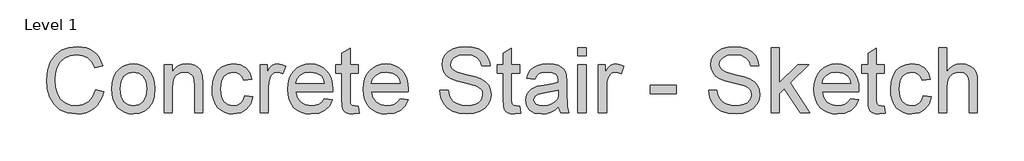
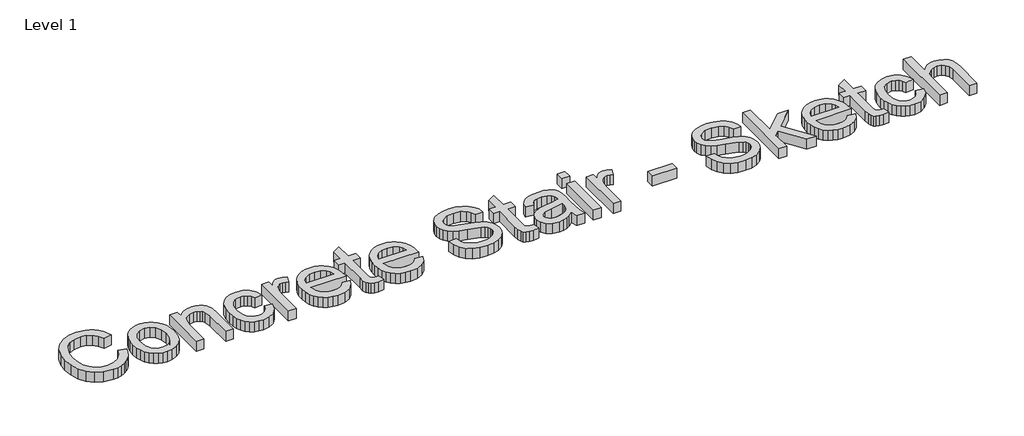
# One storey, part 24 of 26: 1 proxy.
"""IFC4 building model written with IfcOpenShell, lengths in millimetres."""

from ifc_helpers import new_model, si_unit, origin, origin_with_axes, place, context, project, spatial, polyline, outline, extrude, element, save

model = new_model("IFC4")

# Units and contexts
model_context = context("Model", 3, world=origin())
ifc_project = project(units=[si_unit("LENGTHUNIT", "METRE", prefix="MILLI")], contexts=[model_context])

# Site, building, storey
site = spatial("IfcSite", under=ifc_project)
building = spatial("IfcBuilding", under=site)
storey = spatial("IfcBuildingStorey", under=building, Name="Level 1", Elevation=0.0)

# Proxy
placement = place(None, origin())
element("IfcBuildingElementProxy", 1, Name="12\" Arial", ObjectType="12\" Arial", at=placement, inside=storey, context=model_context, shape_type="SweptSolid", body=[
    extrude(outline(polyline([(-4504.4827341, 9583.5567877), (-4466.9688879, 9573.8852493), (-4474.3919768, 9550.5558683), (-4484.2787437, 9530.1709945), (-4496.6291884, 9512.7306279), (-4511.443311, 9498.2347685), (-4528.3868206, 9486.8391134), (-4547.1254264, 9478.6993598), (-4567.6591283, 9473.8155077), (-4589.9879264, 9472.187557), (-4633.5006908, 9477.1149127), (-4668.0562918, 9491.89698), (-4694.5431187, 9516.0208743), (-4713.849561, 9548.9737108), (-4725.6367485, 9587.7148166), (-4729.565811, 9629.2035185), (-4725.1238639, 9672.9635666), (-4711.7980225, 9710.7521723), (-4690.2843446, 9741.3695521), (-4661.2788879, 9763.6159223), (-4626.8789841, 9777.1615714), (-4589.1819648, 9781.6767877), (-4548.0504504, 9775.8335666), (-4530.1567305, 9768.5295401), (-4514.0443687, 9758.3039031), (-4499.978966, 9745.4268358), (-4488.2261235, 9730.1685185), (-4471.6581187, 9692.5081339), (-4509.1719648, 9683.5692877), (-4522.1772533, 9710.9261868), (-4539.9450418, 9729.6922685), (-4562.6951379, 9740.5452733), (-4590.6473494, 9744.1629416), (-4622.8674937, 9740.1514512), (-4649.3360033, 9728.11698), (-4669.4209312, 9709.3234223), (-4682.4903302, 9685.0346723), (-4689.6615562, 9657.5770281), (-4692.0519648, 9629.2767877), (-4689.2219408, 9594.6204416), (-4680.7318687, 9564.6533262), (-4666.2611956, 9540.5202733), (-4645.4893687, 9523.3661146), (-4620.5869889, 9513.117581), (-4593.7246571, 9509.7014031), (-4562.4112196, 9514.3539993), (-4536.3182148, 9528.3117877), (-4516.6179504, 9551.42823), (-4504.4827341, 9583.5567877)])), origin_with_axes(), (0.0, 0.0, 1.0), 50.8),
    extrude(outline(polyline([(-4429.4550418, 9587.0737108), (-4427.4263999, 9615.6166555), (-4421.3404744, 9640.2122204), (-4411.1972653, 9660.8604055), (-4396.9967725, 9677.5612108), (-4382.7001139, 9688.2356219), (-4366.9197533, 9695.8602012), (-4349.6556908, 9700.4349488), (-4330.9079264, 9701.9598646), (-4310.2116583, 9700.1029476), (-4291.4982389, 9694.5321964), (-4274.767668, 9685.247611), (-4260.0199456, 9672.2491916), (-4247.9831848, 9655.9765534), (-4239.3854985, 9636.8693118), (-4234.2268867, 9614.9274668), (-4232.5073494, 9590.1510185), (-4235.5480225, 9552.2525089), (-4244.6700418, 9523.4027493), (-4259.6078062, 9501.7974848), (-4280.0957148, 9485.6324608), (-4304.4302581, 9475.5487829), (-4330.9079264, 9472.187557), (-4351.90643, 9474.037605), (-4370.7938639, 9479.5877493), (-4387.570228, 9488.8379896), (-4402.2355225, 9501.7883262), (-4414.1440622, 9518.2189512), (-4422.6501619, 9537.910057), (-4427.7538218, 9560.8616435), (-4429.4550418, 9587.0737108)]), holes=[polyline([(-4391.9411956, 9587.14698), (-4387.5999937, 9553.1958502), (-4374.5763879, 9529.0078454), (-4354.9768687, 9514.5280137), (-4330.9079264, 9509.7014031), (-4306.9488879, 9514.5554896), (-4287.3860033, 9529.1177493), (-4274.3623975, 9553.626307), (-4270.0211956, 9588.3192877), (-4274.3898735, 9621.2812829), (-4287.4959071, 9645.1395762), (-4307.0862677, 9659.6194079), (-4330.9079264, 9664.4460185), (-4354.9768687, 9659.6377252), (-4374.5763879, 9645.2128454), (-4387.5999937, 9621.0797925), (-4391.9411956, 9587.14698)])]), origin_with_axes(), (0.0, 0.0, 1.0), 50.8),
    extrude(outline(polyline([(-4190.3042725, 9476.8767877), (-4190.3042725, 9697.2706339), (-4152.7904264, 9697.2706339), (-4152.7904264, 9666.497557), (-4139.7576619, 9682.0123166), (-4124.1055225, 9693.0942877), (-4105.8340081, 9699.7434704), (-4084.9431187, 9701.9598646), (-4066.4517966, 9700.1739271), (-4049.5174456, 9694.8161146), (-4035.3948014, 9686.5550089), (-4025.3385994, 9676.0591916), (-4014.0917725, 9648.4733262), (-4012.1135033, 9612.205057), (-4012.1135033, 9476.8767877), (-4049.6273494, 9476.8767877), (-4049.6273494, 9607.14948), (-4053.9502341, 9640.3404416), (-4059.930835, 9650.2226291), (-4069.2268687, 9657.8884223), (-4081.1422773, 9662.8066195), (-4094.9810033, 9664.4460185), (-4116.9526139, 9660.7642396), (-4135.682061, 9649.7189031), (-4143.1669708, 9640.7022084), (-4148.513335, 9628.3792396), (-4152.7904264, 9593.81448), (-4152.7904264, 9476.8767877), (-4190.3042725, 9476.8767877)])), origin_with_axes(), (0.0, 0.0, 1.0), 50.8),
    extrude(outline(polyline([(-3819.8550418, 9556.5937108), (-3782.3411956, 9551.90448), (-3792.8003783, 9518.5395041), (-3812.4548494, 9493.32573), (-3839.454561, 9477.4721002), (-3871.9494648, 9472.187557), (-3892.9891824, 9474.030736), (-3911.8537196, 9479.5602733), (-3928.5430766, 9488.7761687), (-3943.0572533, 9501.6784223), (-3954.8055165, 9518.0243298), (-3963.1971331, 9537.5711868), (-3968.232103, 9560.3189933), (-3969.9104264, 9586.2677493), (-3967.0437677, 9619.6510425), (-3958.4437918, 9648.58323), (-3943.9731187, 9671.946956), (-3923.4943687, 9688.6248646), (-3898.9949696, 9698.6261146), (-3872.4623494, 9701.9598646), (-3840.7642485, 9697.3805377), (-3815.4222533, 9683.642557), (-3797.2423254, 9661.4786146), (-3787.0304264, 9631.6214031), (-3824.5442725, 9626.9321723), (-3831.3491523, 9643.2986868), (-3841.9457148, 9655.0309223), (-3855.7478062, 9662.0922445), (-3872.1692725, 9664.4460185), (-3896.4122293, 9659.8117396), (-3915.654561, 9645.9089031), (-3928.2110754, 9621.9864993), (-3932.3965802, 9587.2935185), (-3928.3026619, 9552.1334464), (-3916.0209071, 9528.1286146), (-3897.1266043, 9514.308206), (-3873.1950418, 9509.7014031), (-3853.7695369, 9512.5772204), (-3837.8426379, 9521.2046723), (-3826.2569408, 9535.8035666), (-3819.8550418, 9556.5937108)])), origin_with_axes(), (0.0, 0.0, 1.0), 50.8),
    extrude(outline(polyline([(-3749.5165802, 9476.8767877), (-3749.5165802, 9697.2706339), (-3716.6919648, 9697.2706339), (-3716.6919648, 9664.6658262), (-3704.5659071, 9683.5692877), (-3693.3923494, 9694.7062108), (-3682.1821571, 9700.1464512), (-3669.9461956, 9701.9598646), (-3651.2625418, 9699.06573), (-3632.285811, 9690.3833262), (-3644.8148494, 9656.7527493), (-3658.003311, 9662.5227012), (-3671.1917725, 9664.4460185), (-3682.3928062, 9662.5959704), (-3692.4032148, 9657.0458262), (-3700.4903062, 9648.2168839), (-3705.9213879, 9636.5304416), (-3710.4823975, 9615.5754416), (-3712.0027341, 9592.7154416), (-3712.0027341, 9476.8767877), (-3749.5165802, 9476.8767877)])), origin_with_axes(), (0.0, 0.0, 1.0), 50.8),
    extrude(outline(polyline([(-3454.5346571, 9542.5260185), (-3417.7535033, 9537.8367877), (-3431.0060754, 9510.1227012), (-3452.1534071, 9489.4058262), (-3480.7192485, 9476.4921243), (-3516.2273494, 9472.187557), (-3539.5040682, 9474.044474), (-3560.2438398, 9479.6152252), (-3578.4466643, 9488.8998106), (-3594.1125418, 9501.89823), (-3606.7102701, 9518.2487168), (-3615.7086475, 9537.5895041), (-3621.107674, 9559.9205918), (-3622.9073494, 9585.24198), (-3621.0893567, 9611.4219921), (-3615.6353783, 9634.4972204), (-3606.5454143, 9654.4676651), (-3593.8194648, 9671.3333262), (-3578.1948014, 9684.7324368), (-3560.4086956, 9694.30323), (-3540.4611475, 9700.045706), (-3518.3521571, 9701.9598646), (-3496.9552521, 9700.0502853), (-3477.6053062, 9694.3215473), (-3460.3023194, 9684.7736507), (-3445.0462918, 9671.4065954), (-3432.5928122, 9654.577569), (-3423.6974696, 9634.6437589), (-3418.3602641, 9611.6051651), (-3416.5811956, 9585.4617877), (-3416.8010033, 9575.3506339), (-3585.3935033, 9575.3506339), (-3578.9000177, 9547.2702012), (-3563.8157148, 9526.6265954), (-3542.0455946, 9513.9327012), (-3515.4946571, 9509.7014031), (-3495.5287918, 9511.661355), (-3478.7135033, 9517.5412108), (-3465.0487918, 9527.7073166), (-3454.5346571, 9542.5260185)]), holes=[polyline([(-3585.3935033, 9612.86448), (-3454.0950418, 9612.86448), (-3459.168936, 9632.683807), (-3469.1152341, 9646.8614031), (-3490.9860994, 9660.0498646), (-3518.4986956, 9664.4460185), (-3543.7857389, 9660.9382541), (-3564.6949456, 9650.4149608), (-3579.2297293, 9634.0118118), (-3585.3935033, 9612.86448)])]), origin_with_axes(), (0.0, 0.0, 1.0), 50.8),
    extrude(outline(polyline([(-3299.3504264, 9508.1627493), (-3294.6611956, 9475.7777493), (-3322.723311, 9472.187557), (-3340.7292244, 9473.7445281), (-3354.155811, 9478.4154416), (-3363.6441764, 9485.6141435), (-3369.8354264, 9494.75448), (-3373.2424456, 9510.4524127), (-3374.3781187, 9537.3239031), (-3374.3781187, 9659.7567877), (-3402.5135033, 9659.7567877), (-3402.5135033, 9697.2706339), (-3374.3781187, 9697.2706339), (-3374.3781187, 9750.8304416), (-3336.8642725, 9772.88448), (-3336.8642725, 9697.2706339), (-3299.3504264, 9697.2706339), (-3299.3504264, 9659.7567877), (-3336.8642725, 9659.7567877), (-3336.8642725, 9538.4229416), (-3334.8860033, 9519.0798646), (-3328.4749456, 9512.2291916), (-3315.6894648, 9509.7014031), (-3299.3504264, 9508.1627493)])), origin_with_axes(), (0.0, 0.0, 1.0), 50.8),
    extrude(outline(polyline([(-3107.5315802, 9542.5260185), (-3070.7504264, 9537.8367877), (-3084.0029985, 9510.1227012), (-3105.1503302, 9489.4058262), (-3133.7161716, 9476.4921243), (-3169.2242725, 9472.187557), (-3192.5009913, 9474.044474), (-3213.2407629, 9479.6152252), (-3231.4435874, 9488.8998106), (-3247.1094648, 9501.89823), (-3259.7071932, 9518.2487168), (-3268.7055706, 9537.5895041), (-3274.104597, 9559.9205918), (-3275.9042725, 9585.24198), (-3274.0862797, 9611.4219921), (-3268.6323014, 9634.4972204), (-3259.5423374, 9654.4676651), (-3246.8163879, 9671.3333262), (-3231.1917244, 9684.7324368), (-3213.4056187, 9694.30323), (-3193.4580706, 9700.045706), (-3171.3490802, 9701.9598646), (-3149.9521752, 9700.0502853), (-3130.6022293, 9694.3215473), (-3113.2992425, 9684.7736507), (-3098.0432148, 9671.4065954), (-3085.5897353, 9654.577569), (-3076.6943927, 9634.6437589), (-3071.3571872, 9611.6051651), (-3069.5781187, 9585.4617877), (-3069.7979264, 9575.3506339), (-3238.3904264, 9575.3506339), (-3231.8969408, 9547.2702012), (-3216.8126379, 9526.6265954), (-3195.0425177, 9513.9327012), (-3168.4915802, 9509.7014031), (-3148.5257148, 9511.661355), (-3131.7104264, 9517.5412108), (-3118.0457148, 9527.7073166), (-3107.5315802, 9542.5260185)]), holes=[polyline([(-3238.3904264, 9612.86448), (-3107.0919648, 9612.86448), (-3112.1658591, 9632.683807), (-3122.1121571, 9646.8614031), (-3143.9830225, 9660.0498646), (-3171.4956187, 9664.4460185), (-3196.7826619, 9660.9382541), (-3217.6918687, 9650.4149608), (-3232.2266523, 9634.0118118), (-3238.3904264, 9612.86448)])]), origin_with_axes(), (0.0, 0.0, 1.0), 50.8),
    extrude(outline(polyline([(-2924.2119648, 9580.0398646), (-2886.6981187, 9580.0398646), (-2882.3935514, 9559.2222445), (-2874.6086956, 9542.4893839), (-2862.4643206, 9529.2093358), (-2845.0811956, 9518.7501531), (-2823.8331187, 9511.9635906), (-2800.0938879, 9509.7014031), (-2779.1938398, 9511.4140714), (-2760.8948494, 9516.5520762), (-2746.0669889, 9524.6849608), (-2735.5803302, 9535.3822685), (-2729.3432869, 9547.6640233), (-2727.2642725, 9560.5502493), (-2728.8212437, 9573.1067637), (-2733.4921571, 9583.9597685), (-2742.9805225, 9593.2191675), (-2758.9898494, 9600.9948646), (-2813.612061, 9615.3189993), (-2849.4681908, 9624.798206), (-2872.4106187, 9633.81948), (-2891.0851139, 9646.440105), (-2904.3193687, 9661.735057), (-2912.2049696, 9679.3746243), (-2914.8335033, 9699.0290954), (-2911.5821812, 9721.000706), (-2901.8282148, 9741.4886146), (-2885.8280466, 9758.8534223), (-2863.8381187, 9771.45573), (-2837.4428783, 9779.1215233), (-2808.2267725, 9781.6767877), (-2776.5744648, 9779.0024608), (-2748.8786956, 9770.97948), (-2726.1285994, 9757.7727012), (-2709.313311, 9739.54698), (-2698.6709552, 9717.4379896), (-2694.4396571, 9692.5814031), (-2731.9535033, 9692.5814031), (-2738.840811, 9714.9651531), (-2753.2015802, 9731.1210185), (-2775.6402821, 9740.9024608), (-2806.7613879, 9744.1629416), (-2838.615186, 9740.9390954), (-2860.4677341, 9731.267557), (-2873.1066764, 9717.0350089), (-2877.3196571, 9700.1281339), (-2874.333936, 9685.7124127), (-2865.3767725, 9674.117557), (-2844.2019648, 9663.7499608), (-2804.1236956, 9653.162557), (-2762.7632148, 9643.106355), (-2737.7417725, 9634.3323646), (-2716.3563158, 9620.722605), (-2701.4368687, 9603.9256339), (-2692.6720369, 9584.1246243), (-2689.7504264, 9561.5027493), (-2693.1116523, 9538.3771483), (-2703.1953302, 9516.6253454), (-2719.5893206, 9497.905057), (-2741.8814841, 9483.8739993), (-2768.6888639, 9475.1091675), (-2798.6285033, 9472.187557), (-2835.3821812, 9475.3381339), (-2865.6332148, 9484.7898646), (-2889.7296331, 9500.5793839), (-2908.0194648, 9522.7433262), (-2919.7608591, 9549.7430377), (-2924.2119648, 9580.0398646)])), origin_with_axes(), (0.0, 0.0, 1.0), 50.8),
    extrude(outline(polyline([(-2558.4519648, 9508.1627493), (-2553.7627341, 9475.7777493), (-2581.8248494, 9472.187557), (-2599.8307629, 9473.7445281), (-2613.2573494, 9478.4154416), (-2622.7457148, 9485.6141435), (-2628.9369648, 9494.75448), (-2632.3439841, 9510.4524127), (-2633.4796571, 9537.3239031), (-2633.4796571, 9659.7567877), (-2661.6150418, 9659.7567877), (-2661.6150418, 9697.2706339), (-2633.4796571, 9697.2706339), (-2633.4796571, 9750.8304416), (-2595.965811, 9772.88448), (-2595.965811, 9697.2706339), (-2558.4519648, 9697.2706339), (-2558.4519648, 9659.7567877), (-2595.965811, 9659.7567877), (-2595.965811, 9538.4229416), (-2593.9875418, 9519.0798646), (-2587.5764841, 9512.2291916), (-2574.7910033, 9509.7014031), (-2558.4519648, 9508.1627493)])), origin_with_axes(), (0.0, 0.0, 1.0), 50.8),
    extrude(outline(polyline([(-2380.2611956, 9505.0121723), (-2398.1846812, 9489.6439512), (-2416.6393687, 9479.5877493), (-2436.0465562, 9474.037605), (-2456.8275418, 9472.187557), (-2488.1776139, 9476.6386627), (-2511.3032148, 9489.99198), (-2525.5632389, 9510.2692396), (-2530.3165802, 9535.4921723), (-2528.5214841, 9551.0435666), (-2523.1361956, 9565.1662108), (-2514.8292966, 9577.2556339), (-2504.2693687, 9586.7073646), (-2478.0023494, 9599.0165954), (-2445.5440802, 9604.6583262), (-2407.1876379, 9610.5931339), (-2380.4810033, 9617.5537108), (-2380.2611956, 9625.9064031), (-2382.843936, 9642.6484223), (-2390.5921571, 9653.6021723), (-2407.9203302, 9661.735057), (-2432.0625418, 9664.4460185), (-2454.4096571, 9662.6417637), (-2470.0160033, 9657.2289993), (-2480.6583591, 9647.2185906), (-2488.1135033, 9631.6214031), (-2525.6273494, 9636.3106339), (-2519.1155466, 9656.8260185), (-2509.3982148, 9672.9452493), (-2495.5686475, 9685.2727973), (-2476.7201379, 9694.4131339), (-2453.6678062, 9700.073182), (-2427.2267725, 9701.9598646), (-2401.86646, 9700.2929896), (-2381.7632148, 9695.2923646), (-2366.6056427, 9687.7731098), (-2356.0823494, 9678.5503454), (-2349.1034552, 9667.1478214), (-2344.5790802, 9653.0892877), (-2342.7473494, 9620.2646723), (-2342.7473494, 9573.5921723), (-2340.8423494, 9508.4191916), (-2333.3688879, 9476.8767877), (-2370.8827341, 9476.8767877), (-2380.2611956, 9505.0121723)]), holes=[polyline([(-2380.2611956, 9580.0398646), (-2440.7815802, 9568.5365954), (-2473.0566764, 9562.4552493), (-2487.6738879, 9552.5639031), (-2492.8027341, 9538.1298646), (-2490.0093446, 9526.9746243), (-2481.6291764, 9517.8342877), (-2467.8454023, 9511.7346243), (-2448.8411956, 9509.7014031), (-2428.6921571, 9511.9452733), (-2410.8877341, 9518.6768839), (-2396.4536956, 9528.595706), (-2386.415811, 9540.4012108), (-2381.9647052, 9552.5639031), (-2380.4810033, 9569.4158262), (-2380.2611956, 9580.0398646)])]), origin_with_axes(), (0.0, 0.0, 1.0), 50.8),
    extrude(outline(polyline([(-2291.165811, 9476.8767877), (-2291.165811, 9697.2706339), (-2253.6519648, 9697.2706339), (-2253.6519648, 9476.8767877), (-2291.165811, 9476.8767877)])), origin_with_axes(), (0.0, 0.0, 1.0), 50.8),
    extrude(outline(polyline([(-2291.165811, 9739.4737108), (-2291.165811, 9776.987557), (-2253.6519648, 9776.987557), (-2253.6519648, 9739.4737108), (-2291.165811, 9739.4737108)])), origin_with_axes(), (0.0, 0.0, 1.0), 50.8),
    extrude(outline(polyline([(-2197.3811956, 9476.8767877), (-2197.3811956, 9697.2706339), (-2164.5565802, 9697.2706339), (-2164.5565802, 9664.6658262), (-2152.4305225, 9683.5692877), (-2141.2569648, 9694.7062108), (-2130.0467725, 9700.1464512), (-2117.810811, 9701.9598646), (-2099.1271571, 9699.06573), (-2080.1504264, 9690.3833262), (-2092.6794648, 9656.7527493), (-2105.8679264, 9662.5227012), (-2119.0563879, 9664.4460185), (-2130.2574216, 9662.5959704), (-2140.2678302, 9657.0458262), (-2148.3549216, 9648.2168839), (-2153.7860033, 9636.5304416), (-2158.3470129, 9615.5754416), (-2159.8673494, 9592.7154416), (-2159.8673494, 9476.8767877), (-2197.3811956, 9476.8767877)])), origin_with_axes(), (0.0, 0.0, 1.0), 50.8),
    extrude(outline(polyline([(-1958.2304264, 9565.9721723), (-1958.2304264, 9603.4860185), (-1840.9996571, 9603.4860185), (-1840.9996571, 9565.9721723), (-1958.2304264, 9565.9721723)])), origin_with_axes(), (0.0, 0.0, 1.0), 50.8),
    extrude(outline(polyline([(-1690.9442725, 9580.0398646), (-1653.4304264, 9580.0398646), (-1649.1258591, 9559.2222445), (-1641.3410033, 9542.4893839), (-1629.1966283, 9529.2093358), (-1611.8135033, 9518.7501531), (-1590.5654264, 9511.9635906), (-1566.8261956, 9509.7014031), (-1545.9261475, 9511.4140714), (-1527.6271571, 9516.5520762), (-1512.7992966, 9524.6849608), (-1502.3126379, 9535.3822685), (-1496.0755946, 9547.6640233), (-1493.9965802, 9560.5502493), (-1495.5535514, 9573.1067637), (-1500.2244648, 9583.9597685), (-1509.7128302, 9593.2191675), (-1525.7221571, 9600.9948646), (-1580.3443687, 9615.3189993), (-1616.2004985, 9624.798206), (-1639.1429264, 9633.81948), (-1657.8174216, 9646.440105), (-1671.0516764, 9661.735057), (-1678.9372773, 9679.3746243), (-1681.565811, 9699.0290954), (-1678.3144889, 9721.000706), (-1668.5605225, 9741.4886146), (-1652.5603543, 9758.8534223), (-1630.5704264, 9771.45573), (-1604.175186, 9779.1215233), (-1574.9590802, 9781.6767877), (-1543.3067725, 9779.0024608), (-1515.6110033, 9770.97948), (-1492.8609071, 9757.7727012), (-1476.0456187, 9739.54698), (-1465.4032629, 9717.4379896), (-1461.1719648, 9692.5814031), (-1498.685811, 9692.5814031), (-1505.5731187, 9714.9651531), (-1519.9338879, 9731.1210185), (-1542.3725898, 9740.9024608), (-1573.4936956, 9744.1629416), (-1605.3474937, 9740.9390954), (-1627.2000418, 9731.267557), (-1639.8389841, 9717.0350089), (-1644.0519648, 9700.1281339), (-1641.0662437, 9685.7124127), (-1632.1090802, 9674.117557), (-1610.9342725, 9663.7499608), (-1570.8560033, 9653.162557), (-1529.4955225, 9643.106355), (-1504.4740802, 9634.3323646), (-1483.0886235, 9620.722605), (-1468.1691764, 9603.9256339), (-1459.4043446, 9584.1246243), (-1456.4827341, 9561.5027493), (-1459.84396, 9538.3771483), (-1469.9276379, 9516.6253454), (-1486.3216283, 9497.905057), (-1508.6137918, 9483.8739993), (-1535.4211716, 9475.1091675), (-1565.360811, 9472.187557), (-1602.1144889, 9475.3381339), (-1632.3655225, 9484.7898646), (-1656.4619408, 9500.5793839), (-1674.7517725, 9522.7433262), (-1686.4931668, 9549.7430377), (-1690.9442725, 9580.0398646)])), origin_with_axes(), (0.0, 0.0, 1.0), 50.8),
    extrude(outline(polyline([(-1404.9011956, 9476.8767877), (-1404.9011956, 9776.987557), (-1367.3873494, 9776.987557), (-1367.3873494, 9615.72198), (-1283.2742725, 9697.2706339), (-1231.3996571, 9697.2706339), (-1316.5385033, 9614.6962108), (-1226.7104264, 9476.8767877), (-1270.5254264, 9476.8767877), (-1343.428311, 9588.6123646), (-1367.3873494, 9565.3860185), (-1367.3873494, 9476.8767877), (-1404.9011956, 9476.8767877)])), origin_with_axes(), (0.0, 0.0, 1.0), 50.8),
    extrude(outline(polyline([(-1039.580811, 9542.5260185), (-1002.7996571, 9537.8367877), (-1016.0522293, 9510.1227012), (-1037.199561, 9489.4058262), (-1065.7654023, 9476.4921243), (-1101.2735033, 9472.187557), (-1124.550222, 9474.044474), (-1145.2899937, 9479.6152252), (-1163.4928182, 9488.8998106), (-1179.1586956, 9501.89823), (-1191.756424, 9518.2487168), (-1200.7548014, 9537.5895041), (-1206.1538278, 9559.9205918), (-1207.9535033, 9585.24198), (-1206.1355105, 9611.4219921), (-1200.6815321, 9634.4972204), (-1191.5915682, 9654.4676651), (-1178.8656187, 9671.3333262), (-1163.2409552, 9684.7324368), (-1145.4548494, 9694.30323), (-1125.5073014, 9700.045706), (-1103.398311, 9701.9598646), (-1082.0014059, 9700.0502853), (-1062.65146, 9694.3215473), (-1045.3484732, 9684.7736507), (-1030.0924456, 9671.4065954), (-1017.638966, 9654.577569), (-1008.7436235, 9634.6437589), (-1003.406418, 9611.6051651), (-1001.6273494, 9585.4617877), (-1001.8471571, 9575.3506339), (-1170.4396571, 9575.3506339), (-1163.9461716, 9547.2702012), (-1148.8618687, 9526.6265954), (-1127.0917485, 9513.9327012), (-1100.540811, 9509.7014031), (-1080.5749456, 9511.661355), (-1063.7596571, 9517.5412108), (-1050.0949456, 9527.7073166), (-1039.580811, 9542.5260185)]), holes=[polyline([(-1170.4396571, 9612.86448), (-1039.1411956, 9612.86448), (-1044.2150898, 9632.683807), (-1054.1613879, 9646.8614031), (-1076.0322533, 9660.0498646), (-1103.5448494, 9664.4460185), (-1128.8318927, 9660.9382541), (-1149.7410994, 9650.4149608), (-1164.2758831, 9634.0118118), (-1170.4396571, 9612.86448)])]), origin_with_axes(), (0.0, 0.0, 1.0), 50.8),
    extrude(outline(polyline([(-884.3965802, 9508.1627493), (-879.7073494, 9475.7777493), (-907.7694648, 9472.187557), (-925.7753783, 9473.7445281), (-939.2019648, 9478.4154416), (-948.6903302, 9485.6141435), (-954.8815802, 9494.75448), (-958.2885994, 9510.4524127), (-959.4242725, 9537.3239031), (-959.4242725, 9659.7567877), (-987.5596571, 9659.7567877), (-987.5596571, 9697.2706339), (-959.4242725, 9697.2706339), (-959.4242725, 9750.8304416), (-921.9104264, 9772.88448), (-921.9104264, 9697.2706339), (-884.3965802, 9697.2706339), (-884.3965802, 9659.7567877), (-921.9104264, 9659.7567877), (-921.9104264, 9538.4229416), (-919.9321571, 9519.0798646), (-913.5210994, 9512.2291916), (-900.7356187, 9509.7014031), (-884.3965802, 9508.1627493)])), origin_with_axes(), (0.0, 0.0, 1.0), 50.8),
    extrude(outline(polyline([(-706.205811, 9556.5937108), (-668.6919648, 9551.90448), (-679.1511475, 9518.5395041), (-698.8056187, 9493.32573), (-725.8053302, 9477.4721002), (-758.3002341, 9472.187557), (-779.3399516, 9474.030736), (-798.2044889, 9479.5602733), (-814.8938458, 9488.7761687), (-829.4080225, 9501.6784223), (-841.1562857, 9518.0243298), (-849.5479023, 9537.5711868), (-854.5828723, 9560.3189933), (-856.2611956, 9586.2677493), (-853.3945369, 9619.6510425), (-844.794561, 9648.58323), (-830.3238879, 9671.946956), (-809.8451379, 9688.6248646), (-785.3457389, 9698.6261146), (-758.8131187, 9701.9598646), (-727.1150177, 9697.3805377), (-701.7730225, 9683.642557), (-683.5930946, 9661.4786146), (-673.3811956, 9631.6214031), (-710.8950418, 9626.9321723), (-717.6999216, 9643.2986868), (-728.2964841, 9655.0309223), (-742.0985754, 9662.0922445), (-758.5200418, 9664.4460185), (-782.7629985, 9659.8117396), (-802.0053302, 9645.9089031), (-814.5618446, 9621.9864993), (-818.7473494, 9587.2935185), (-814.6534312, 9552.1334464), (-802.3716764, 9528.1286146), (-783.4773735, 9514.308206), (-759.545811, 9509.7014031), (-740.1203062, 9512.5772204), (-724.1934071, 9521.2046723), (-712.60771, 9535.8035666), (-706.205811, 9556.5937108)])), origin_with_axes(), (0.0, 0.0, 1.0), 50.8),
    extrude(outline(polyline([(-635.8673494, 9476.8767877), (-635.8673494, 9776.987557), (-598.3535033, 9776.987557), (-598.3535033, 9666.6440954), (-584.5743086, 9682.0947445), (-569.1007629, 9693.1309223), (-551.9328663, 9699.7526291), (-533.0706187, 9701.9598646), (-510.4121091, 9699.5511387), (-490.940811, 9692.3249608), (-475.6092244, 9680.8491675), (-465.3698494, 9665.6915954), (-459.5998975, 9644.8648166), (-457.6765802, 9616.3814031), (-457.6765802, 9476.8767877), (-495.1904264, 9476.8767877), (-495.1904264, 9612.4981339), (-498.1761475, 9635.9809223), (-507.133311, 9652.0635185), (-521.5673494, 9661.3503935), (-540.9836956, 9664.4460185), (-556.8373254, 9662.3578454), (-571.7201379, 9656.0933262), (-584.047686, 9646.256932), (-592.2355225, 9633.4531339), (-596.8240081, 9616.436355), (-598.3535033, 9593.9610185), (-598.3535033, 9476.8767877), (-635.8673494, 9476.8767877)])), origin_with_axes(), (0.0, 0.0, 1.0), 50.8),
])

save(model, "model.ifc")
